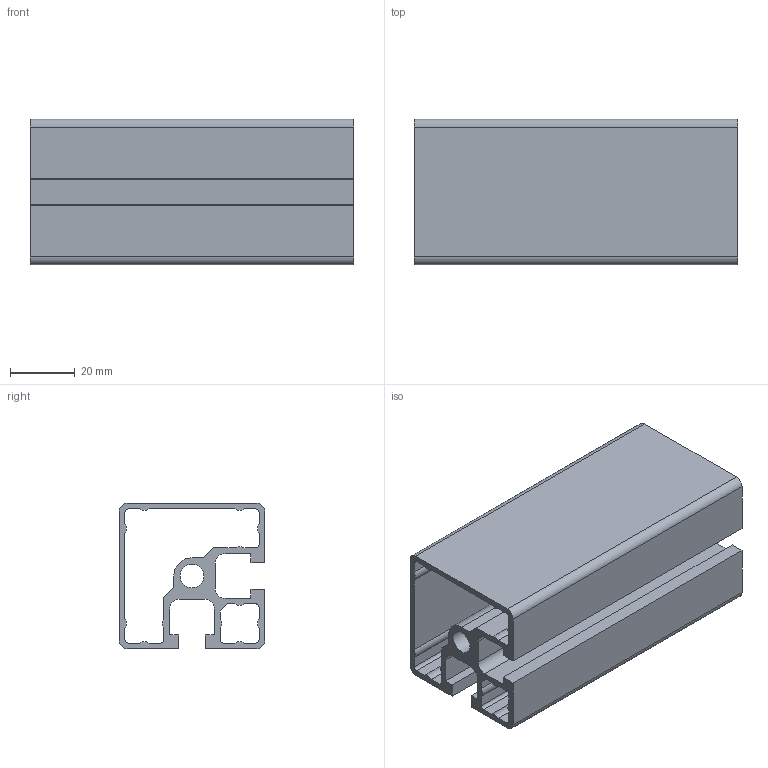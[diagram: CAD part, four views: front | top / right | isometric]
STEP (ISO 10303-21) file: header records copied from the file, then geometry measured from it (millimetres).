
FILE_DESCRIPTION(/* description */ ('STEP AP203'),/* implementation_level */ '2;1');
FILE_NAME(/* name */ 'C:\Users\Stefan.Nesic\Desktop\01010STEP\000Verifica\CORRETTI\PS4545E.stp',/* time_stamp */ '2022-07-12T12:18:25+02:00',/* author */ (''),/* organization */ (''),/* preprocessor_version */ 'ST-DEVELOPER v18.1',/* originating_system */ 'Autodesk Inventor 2021',/* authorisation */ '');
FILE_SCHEMA (('AUTOMOTIVE_DESIGN { 1 0 10303 214 3 1 1 }'));
Length unit declared in the file: millimetre
Products named in the file (1): PS4545E
Bounding box: 100 x 45 x 45 mm (x, y, z)
Volume: 54825.8 mm3; surface area: 49276.6 mm2
Topology: 1 solids, 1 shells, 79 faces, 231 edges, 154 vertices
Faces by surface type: plane 49, cylinder 30
Full cylindrical faces by diameter (mm): 7.3 x1
Entity records: 2678 total; most frequent: CARTESIAN_POINT 465, ORIENTED_EDGE 462, DIRECTION 451, EDGE_CURVE 231, LINE 171, VECTOR 171, VERTEX_POINT 154, AXIS2_PLACEMENT_3D 140
